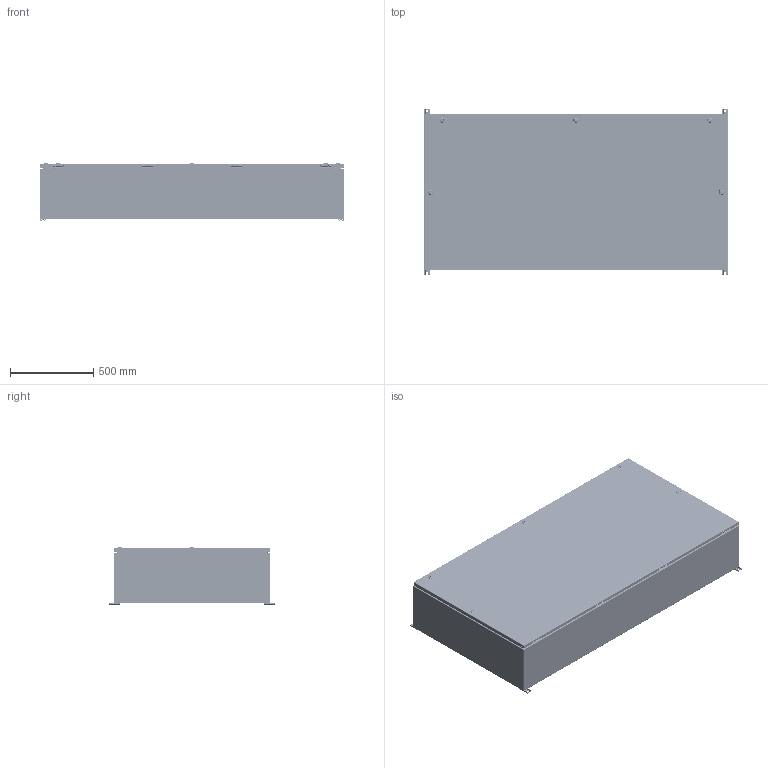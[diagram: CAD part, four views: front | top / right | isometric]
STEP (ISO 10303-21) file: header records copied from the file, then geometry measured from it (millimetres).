
FILE_DESCRIPTION(/* description */ ('1412BTSSCU 2000A - 4 Wires x 72" Assembly'),/* implementation_level */ '2;1');
FILE_NAME(/* name */ 'C:\Vault_Workspace\Inventor_Dwg\BoxCad\Result\1412BTSSCU062004\e-mail\3D\1412BTSSCU062004.stp',/* time_stamp */ '2022-09-20T17:08:34-04:00',/* author */ ('BoxCad'),/* organization */ (''),/* preprocessor_version */ 'ST-DEVELOPER v18.1',/* originating_system */ 'Autodesk Inventor 2020',/* authorisation */ '');
FILE_SCHEMA (('AUTOMOTIVE_DESIGN { 1 0 10303 214 3 1 1 }'));
Products named in the file (53): 1412BTSSCU062004; 1412BTSSCU062004B; 1412BTSSCU062004B-P; STK-Q-16020; 1412BTSSCU062004C; 1412BTSSCU062004C-P; 1412BTSSCU062004G; STK-Q-16095; STK-K-09850-1; STK-Q-33019; STK-Q-90111; STK-Q-40096; STK-Q-63412; STK-S-00100; STK-A-880SCQ4-SLSS6-1; STK-A-880SCQ4-SLSS6-2; STK-A-880SCQ4-SLSS6-3; STK-A-880SCQ4-SLSS6-4; STK-A-880SCQ4-SLSS6-5; STK-Q-70621; STK-Q-70631; STK-Q-78145; STK-Q-03200; STK-Q-78125; STK-Q-90390; STK-Q-78160; STK-Q-78141; 1412BTSSCU062004IP1; 1412BTSSCU062004IP1-P; STK-P-02401S; STK-Q-07610; STK-A-67400; STK-Q-67400; STK-G-22300; STK-Q-67420; STK-Q-40800; STK-Q-67430; STK-Q-07310; 1412BTSSCU062004BAR1-P; 1412BTSSCU062004BAR2-P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
Assembly tree (144 placements, depth 4):
  1412BTSSCU062004
    1412BTSSCU062004B
      1412BTSSCU062004B-P
      STK-Q-16095
      STK-Q-16020  x8
      STK-S-00100
    1412BTSSCU062004C
      1412BTSSCU062004C-P
      1412BTSSCU062004G
      STK-Q-16095
      STK-K-09850-1  x4
        STK-Q-33019
        STK-Q-90111
        STK-Q-40096
        STK-Q-63412
      STK-S-00100
      STK-A-880SCQ4-SLSS6-1
        STK-Q-70621
        STK-Q-70631
        STK-Q-78145
        STK-Q-03200
        STK-Q-78125
        STK-Q-90390
        STK-Q-78160
        STK-Q-78141
      STK-A-880SCQ4-SLSS6-2
        STK-Q-70621
        STK-Q-70631
        STK-Q-78145
        STK-Q-03200
        STK-Q-78125
        STK-Q-90390
        STK-Q-78160
        STK-Q-78141
      STK-A-880SCQ4-SLSS6-3
        STK-Q-70621
        STK-Q-70631
        STK-Q-78145
        STK-Q-03200
        STK-Q-78125
        STK-Q-90390
        STK-Q-78160
        STK-Q-78141
      STK-A-880SCQ4-SLSS6-4
        STK-Q-70621
        STK-Q-70631
        STK-Q-78145
        STK-Q-03200
        STK-Q-78125
        STK-Q-90390
        STK-Q-78160
        STK-Q-78141
      STK-A-880SCQ4-SLSS6-5
        STK-Q-70621
        STK-Q-70631
        STK-Q-78145
        STK-Q-03200
        STK-Q-78125
        STK-Q-90390
        STK-Q-78160
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Bounding box: 1828.8 x 996.95 x 345 mm (x, y, z)
Volume: 21471058.3 mm3; surface area: 15323052.7 mm2
Topology: 216 solids, 216 shells, 31995 faces, 84226 edges, 52656 vertices
Faces by surface type: plane 11950, bspline 8984, cylinder 7841, torus 2203, sphere 650, cone 367
Full cylindrical faces by diameter (mm): 0.75 x10, 0.762 x10, 1 x16, 1.1 x16, 3.2 x8, 4.5 x48, 4.85 x32, 4.917 x4, 4.95 x8, 5.1 x55, 5.9 x94, 6.65 x12, 6.655 x8, 6.85 x72, 7.366 x8, 7.8 x492, 8 x34, 8.25 x24, 8.6 x12, 9.6 x5, 9.7 x48, 9.906 x4, 10 x9, 10.312 x2, 11.5 x24, 12 x16, 12.7 x2, 12.8 x5, 13 x5, 14 x8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
Entity records: 205615 total; most frequent: CARTESIAN_POINT 82775, ORIENTED_EDGE 27548, DIRECTION 21253, EDGE_CURVE 13774, VERTEX_POINT 8795, AXIS2_PLACEMENT_3D 7272, LINE 6709, VECTOR 6709
